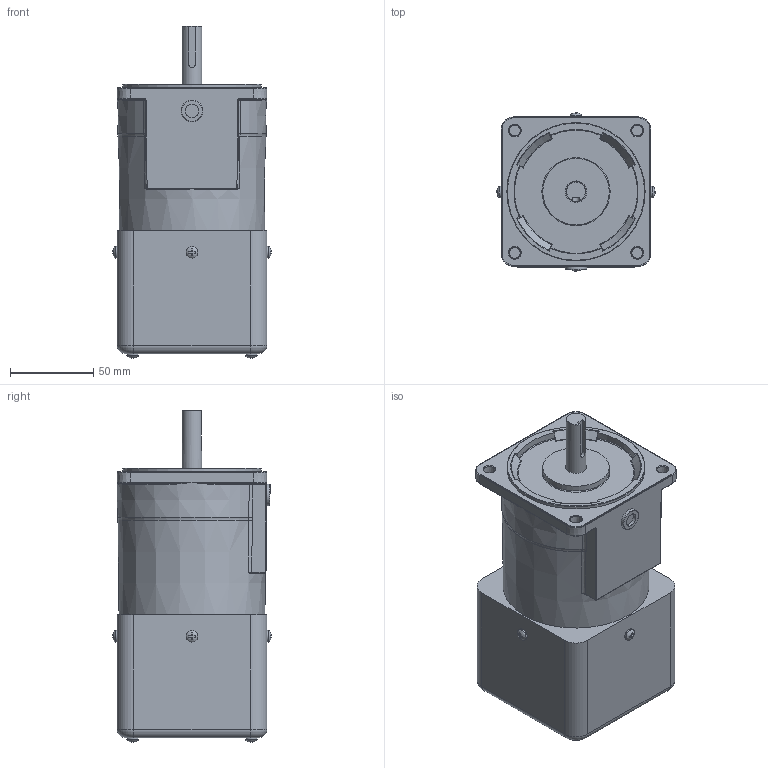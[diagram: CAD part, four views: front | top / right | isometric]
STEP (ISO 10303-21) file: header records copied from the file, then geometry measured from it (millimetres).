
FILE_DESCRIPTION (( 'STEP AP214' ), '1' );
FILE_NAME ('9TDG¤±-30F2WH.STEP', '2025-01-13T08:12:45', ( '' ), ( '' ), 'SwSTEP 2.0', 'SolidWorks 2024', '' );
FILE_SCHEMA (( 'AUTOMOTIVE_DESIGN' ));
Length unit declared in the file: millimetre
Products named in the file (1): 9TDGㅁ-30F2WH
Bounding box: 95.13 x 95.13 x 199.57 mm (x, y, z)
Volume: 1142840.3 mm3; surface area: 74556.8 mm2
Topology: 1 solids, 1 shells, 431 faces, 1105 edges, 706 vertices
Faces by surface type: plane 199, cylinder 135, torus 35, cone 32, bspline 28, sphere 2
Full cylindrical faces by diameter (mm): 6.5 x4, 7 x8, 8 x1, 10 x1, 12 x1, 13 x2, 40 x1, 83.1 x1
Entity records: 13539 total; most frequent: CARTESIAN_POINT 3600, ORIENTED_EDGE 2060, DIRECTION 1988, EDGE_CURVE 1030, AXIS2_PLACEMENT_3D 748, VERTEX_POINT 686, EDGE_LOOP 524, VECTOR 492
